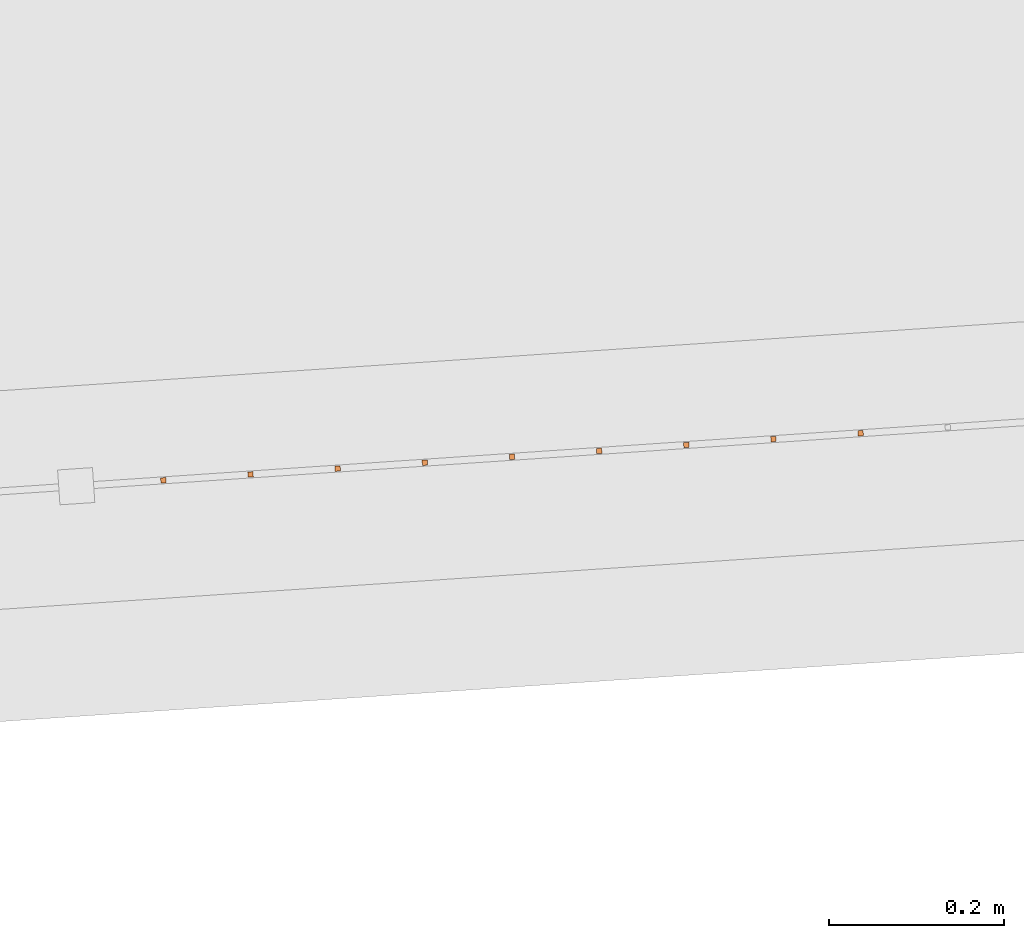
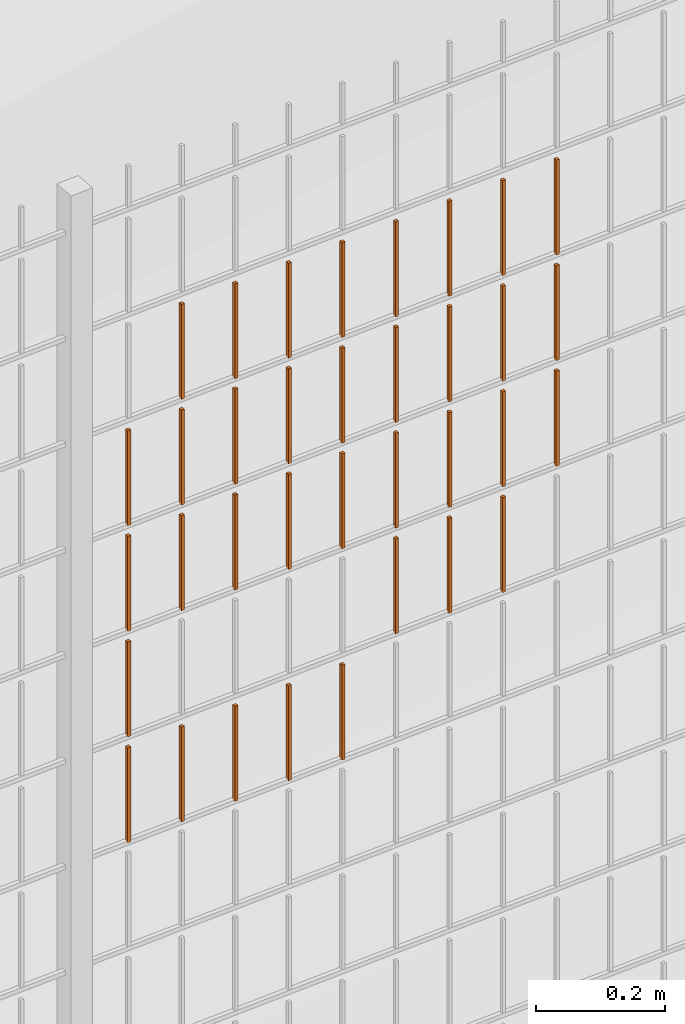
# One storey, part 113 of 1809: 35 proxies, 1 element without a shape of its own.
"""IFC2X3 building model written with IfcOpenShell, lengths in millimetres."""

import ifcopenshell
import ifcopenshell.guid

model = None  # the IFC model being written
_history = None  # IfcOwnerHistory: only IFC2X3 demands one
_inside = {}  # id of a spatial element -> (the spatial element, [elements in it])
_under = {}  # id of a project, library or spatial element -> (it, [spatial elements below it])
_declared = {}  # id of a project -> (the project, [libraries it declares])
_typed = {}  # id of a type object -> (the type object, [elements of that type])
_made_of = {}  # id of a material, layer set ... -> (it, [elements and type objects made of it])


def new_model(schema):
    """Start an empty IFC model of exactly this schema.

    Asked for "IFC4X3", IfcOpenShell would pick the latest addendum, in which some entities
    have other attributes; the version numbers below select the first issue.
    IFC2X3 requires an IfcOwnerHistory on every rooted entity: one is made here for all.
    """
    global model, _history
    if schema == "IFC4X3":
        model = ifcopenshell.file(schema_version=(4, 3, 0, 0))
    else:
        model = ifcopenshell.file(schema=schema)
    _inside.clear()
    _under.clear()
    _declared.clear()
    _typed.clear()
    _made_of.clear()
    _history = None
    if model.schema == "IFC2X3":
        org = make("IfcOrganization", Name="unknown")
        user = make(
            "IfcPersonAndOrganization",
            ThePerson=make("IfcPerson", FamilyName="unknown"),
            TheOrganization=org,
        )
        app = make(
            "IfcApplication",
            ApplicationDeveloper=org,
            Version="unknown",
            ApplicationFullName="unknown",
            ApplicationIdentifier="unknown",
        )
        _history = make(
            "IfcOwnerHistory",
            OwningUser=user,
            OwningApplication=app,
            ChangeAction="ADDED",
            CreationDate=0,
        )
    return model


def make(cls, **values):
    """One entity of the class cls with the attributes given. An attribute that is None is left unset."""
    return model.create_entity(
        cls, **{name: value for name, value in values.items() if value is not None}
    )


def entity(cls, *values):
    """Any entity or typed value of the class cls, its attributes in the order of the schema. None: left unset."""
    e = model.create_entity(cls)
    for i, value in enumerate(values):
        if value is not None:
            e[i] = value
    return e


def rooted(cls, **values):
    """An entity with a GlobalId (a new one), such as an element, a storey or a relation."""
    return make(cls, GlobalId=ifcopenshell.guid.new(), OwnerHistory=_history, **values)


def si_unit(unit_type, name, prefix=None):
    """IfcSIUnit, for example si_unit("LENGTHUNIT", "METRE", prefix="MILLI")."""
    return make("IfcSIUnit", UnitType=unit_type, Prefix=prefix, Name=name)


def converted_unit(unit_type, name, factor, base, dimensions=None, offset=None):
    """IfcConversionBasedUnit, such as the inch: factor (a typed value) times the base unit."""
    return make(
        "IfcConversionBasedUnit"
        if offset is None
        else "IfcConversionBasedUnitWithOffset",
        ConversionOffset=offset,
        Dimensions=None
        if dimensions is None
        else entity("IfcDimensionalExponents", *dimensions),
        UnitType=unit_type,
        Name=name,
        ConversionFactor=make(
            "IfcMeasureWithUnit", ValueComponent=factor, UnitComponent=base
        ),
    )


def derived_unit(unit_type, elements):
    """IfcDerivedUnit: a product of units, each with its exponent."""
    return make(
        "IfcDerivedUnit",
        Elements=[
            make("IfcDerivedUnitElement", Unit=unit, Exponent=power)
            for unit, power in elements
        ],
        UnitType=unit_type,
    )


def money_unit(currency):
    """IfcMonetaryUnit."""
    return make("IfcMonetaryUnit", Currency=currency)


def assignment(units):
    """IfcUnitAssignment: the units of a project."""
    return None if units is None else make("IfcUnitAssignment", Units=units)


def point(xyz):
    """IfcCartesianPoint."""
    return None if xyz is None else make("IfcCartesianPoint", Coordinates=xyz)


def direction(xyz):
    """IfcDirection."""
    return None if xyz is None else make("IfcDirection", DirectionRatios=xyz)


def frame(location, z_axis=None, x_axis=None):
    """IfcAxis2Placement3D, a coordinate frame: its origin and axes. An axis left out is left unset."""
    return make(
        "IfcAxis2Placement3D",
        Location=point(location),
        Axis=direction(z_axis),
        RefDirection=direction(x_axis),
    )


def origin_with_axes():
    """The frame at (0, 0, 0) with the z axis (0, 0, 1) and the x axis (1, 0, 0) written out."""
    return frame((0.0, 0.0, 0.0), z_axis=(0.0, 0.0, 1.0), x_axis=(1.0, 0.0, 0.0))


def place(relative_to, where):
    """IfcLocalPlacement: puts the frame where relative to a parent placement (None: the world)."""
    return make(
        "IfcLocalPlacement", PlacementRelTo=relative_to, RelativePlacement=where
    )


def context(
    kind, dimensions, precision=None, world=None, true_north=None, identifier=None
):
    """IfcGeometricRepresentationContext, for example the 3D "Model" context."""
    return make(
        "IfcGeometricRepresentationContext",
        ContextIdentifier=identifier,
        ContextType=kind,
        CoordinateSpaceDimension=dimensions,
        Precision=precision,
        WorldCoordinateSystem=world,
        TrueNorth=true_north,
    )


def subcontext(parent, identifier, kind, view, scale=None):
    """IfcGeometricRepresentationSubContext, for example "Body" below "Model"."""
    return make(
        "IfcGeometricRepresentationSubContext",
        ContextIdentifier=identifier,
        ContextType=kind,
        ParentContext=parent,
        TargetScale=scale,
        TargetView=view,
    )


def project(units=None, contexts=None):
    """IfcProject with its units and contexts."""
    return rooted(
        "IfcProject",
        Name="project",
        RepresentationContexts=contexts,
        UnitsInContext=assignment(units),
    )


def spatial(cls, under=None, at=None, **own):
    """A site, building, storey or space (cls), placed at a placement, below another one or the project."""
    s = rooted(cls, ObjectPlacement=at, **own)
    if under is not None:
        _under.setdefault(under.id(), (under, []))[1].append(s)
    return s


def faces_of(points, faces, orient=None, outer=None):
    """IfcFace entities. A face is a list of loops; a loop is a list of indices into points, from 0.

    orient and outer hold one flag for each loop. By default every Orientation is true, the
    first loop of a face is its IfcFaceOuterBound and the others are IfcFaceBound.
    """
    made = []
    for i, loops in enumerate(faces):
        bounds = []
        for j, loop in enumerate(loops):
            is_outer = j == 0 if outer is None else outer[i][j]
            bounds.append(
                make(
                    "IfcFaceOuterBound" if is_outer else "IfcFaceBound",
                    Bound=make("IfcPolyLoop", Polygon=[points[k] for k in loop]),
                    Orientation=True if orient is None else orient[i][j],
                )
            )
        made.append(make("IfcFace", Bounds=bounds))
    return made


def faceted_brep(points, faces, orient=None, outer=None, voids=None):
    """IfcFacetedBrep: a solid bounded by flat faces; with voids (closed shells), ...WithVoids."""
    shared = [point(p) for p in points]
    hull = make("IfcClosedShell", CfsFaces=faces_of(shared, faces, orient, outer))
    if voids is None:
        return make("IfcFacetedBrep", Outer=hull)
    return make(
        "IfcFacetedBrepWithVoids",
        Outer=hull,
        Voids=[
            make(cls, CfsFaces=faces_of(shared, fs, o, b)) for cls, fs, o, b in voids
        ],
    )


def shape(context_of_items, identifier, shape_type, items):
    """IfcShapeRepresentation: the items that make up one representation, for example the "Body"."""
    return make(
        "IfcShapeRepresentation",
        ContextOfItems=context_of_items,
        RepresentationIdentifier=identifier,
        RepresentationType=shape_type,
        Items=items,
    )


def source(mapping_origin, context_of_items, identifier, shape_type, items):
    """IfcRepresentationMap: a shape defined once, which mapped items show again and again."""
    return make(
        "IfcRepresentationMap",
        MappingOrigin=mapping_origin,
        MappedRepresentation=shape(context_of_items, identifier, shape_type, items),
    )


def transform(
    local_origin,
    x_axis=None,
    y_axis=None,
    z_axis=None,
    scale=None,
    scale2=None,
    scale3=None,
    uniform=True,
):
    """IfcCartesianTransformationOperator3D, or its non-uniform kind. x_axis, y_axis, z_axis: its Axis1, 2, 3."""
    if uniform:
        return make(
            "IfcCartesianTransformationOperator3D",
            Axis1=direction(x_axis),
            Axis2=direction(y_axis),
            LocalOrigin=point(local_origin),
            Scale=scale,
            Axis3=direction(z_axis),
        )
    return make(
        "IfcCartesianTransformationOperator3DnonUniform",
        Axis1=direction(x_axis),
        Axis2=direction(y_axis),
        LocalOrigin=point(local_origin),
        Scale=scale,
        Axis3=direction(z_axis),
        Scale2=scale2,
        Scale3=scale3,
    )


def mapped(mapping_source, mapping_target):
    """IfcMappedItem: shows the shape of a source again, moved by a transform."""
    return make(
        "IfcMappedItem", MappingSource=mapping_source, MappingTarget=mapping_target
    )


def material(Name=None, Category=None):
    """IfcMaterial."""
    return make("IfcMaterial", Name=Name, Category=Category)


def made_of(thing, what):
    """Note that an element or type object is made of a material, layer set ...; save() writes the relation."""
    if what is not None:
        _made_of.setdefault(what.id(), (what, []))[1].append(thing)
    return thing


def type_object(cls, material=None, **own):
    """A type object (cls), such as IfcWallType, which elements share."""
    return made_of(rooted(cls, **own), material)


def element(
    cls,
    number,
    at=None,
    inside=None,
    cuts=None,
    type_object=None,
    material=None,
    context=None,
    identifier="Body",
    shape_type=None,
    held_by="IfcProductDefinitionShape",
    body=None,
    shapes=None,
    **own,
):
    """One element of the class cls, such as IfcWall. Its Tag is "e" and its number.

    at: its placement. inside: the storey or other place that contains it. cuts: it is an
    opening in that element (IfcRelVoidsElement). A single representation is given by context,
    identifier, shape_type and body (its items); several are given by shapes. held_by: the class
    of the entity that holds the representations. save() writes the other relations.
    """
    e = rooted(cls, Tag="e%d" % number, ObjectPlacement=at, **own)
    if body is not None:
        shapes = [shape(context, identifier, shape_type, body)]
    if shapes is not None:
        e.Representation = make(held_by, Representations=shapes)
    if inside is not None:
        _inside.setdefault(inside.id(), (inside, []))[1].append(e)
    if cuts is not None:
        rooted(
            "IfcRelVoidsElement", RelatingBuildingElement=cuts, RelatedOpeningElement=e
        )
    if type_object is not None:
        _typed.setdefault(type_object.id(), (type_object, []))[1].append(e)
    return made_of(e, material)


def aggregate(whole, parts):
    """IfcRelAggregates: a whole, such as a stair, and the parts it consists of."""
    return rooted("IfcRelAggregates", RelatingObject=whole, RelatedObjects=parts)


def save(model, path):
    """Write the relations noted so far, then the file.

    IfcRelAggregates (storeys below a building ...), IfcRelContainedInSpatialStructure (elements
    in a storey), IfcRelDefinesByType, IfcRelAssociatesMaterial and IfcRelDeclares: one each for
    every whole, place, type object, material and project.
    """
    for whole, parts in _under.values():
        aggregate(whole, parts)
    for where, things in _inside.values():
        rooted(
            "IfcRelContainedInSpatialStructure",
            RelatedElements=things,
            RelatingStructure=where,
        )
    for kind, things in _typed.values():
        rooted("IfcRelDefinesByType", RelatedObjects=things, RelatingType=kind)
    for what, things in _made_of.values():
        rooted("IfcRelAssociatesMaterial", RelatedObjects=things, RelatingMaterial=what)
    for by, libraries in _declared.values():
        rooted("IfcRelDeclares", RelatingContext=by, RelatedDefinitions=libraries)
    model.write(path)


model = new_model("IFC2X3")

# Units and contexts
model_context = context("Model", 3, precision=0.01, world=origin_with_axes(), true_north=direction((0.0, 1.0)))
body_context = subcontext(model_context, "Body", "Model", "MODEL_VIEW")
ifc_project = project(units=[si_unit("LENGTHUNIT", "METRE", prefix="MILLI"), si_unit("AREAUNIT", "SQUARE_METRE"), si_unit("VOLUMEUNIT", "CUBIC_METRE"), converted_unit("PLANEANGLEUNIT", "DEGREE", entity("IfcPlaneAngleMeasure", 0.0174532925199), si_unit("PLANEANGLEUNIT", "RADIAN"), dimensions=[0, 0, 0, 0, 0, 0, 0]), si_unit("SOLIDANGLEUNIT", "STERADIAN"), money_unit("EUR"), converted_unit("TIMEUNIT", "Year", entity("IfcTimeMeasure", 31556926.0), si_unit("TIMEUNIT", "SECOND"), dimensions=[0, 0, 1, 0, 0, 0, 0]), si_unit("MASSUNIT", "GRAM", prefix="KILO"), si_unit("THERMODYNAMICTEMPERATUREUNIT", "DEGREE_CELSIUS"), si_unit("LUMINOUSINTENSITYUNIT", "LUMEN"), si_unit("ENERGYUNIT", "JOULE", prefix="MEGA"), derived_unit("THERMALCONDUCTANCEUNIT", [(si_unit("POWERUNIT", "WATT"), 1), (si_unit("LENGTHUNIT", "METRE"), -1), (si_unit("THERMODYNAMICTEMPERATUREUNIT", "KELVIN"), -1)]), derived_unit("SPECIFICHEATCAPACITYUNIT", [(si_unit("ENERGYUNIT", "JOULE"), 1), (si_unit("MASSUNIT", "GRAM", prefix="KILO"), -1), (si_unit("THERMODYNAMICTEMPERATUREUNIT", "KELVIN"), -1)]), derived_unit("MASSDENSITYUNIT", [(si_unit("MASSUNIT", "GRAM", prefix="KILO"), 1), (si_unit("VOLUMEUNIT", "CUBIC_METRE"), -1)])], contexts=[model_context])

# Site, building, storey
site_placement = place(None, origin_with_axes())
site = spatial("IfcSite", under=ifc_project, at=site_placement, Name="Politse- ja Piirivalveameti ning Päästeameti ühishoone", CompositionType="ELEMENT")
building_placement = place(site_placement, origin_with_axes())
building = spatial("IfcBuilding", under=site, at=building_placement, Name="Politse- ja Piirivalveameti ning Päästeameti ühishoone", CompositionType="ELEMENT")
storey_placement = place(building_placement, origin_with_axes())
storey = spatial("IfcBuildingStorey", under=building, at=storey_placement, Name="Esimene korrus", CompositionType="ELEMENT", Elevation=0.0)

# Proxies
building_element_proxy_type_1 = type_object("IfcBuildingElementProxyType", Name="Railing Type", PredefinedType="NOTDEFINED")
proxy_1_placement = place(storey_placement, frame((89252.001212, -29183.4766571, 203.661247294), z_axis=(0.0, 0.0, 1.0), x_axis=(1.0, 0.0, 0.0)))
proxy_1 = element("IfcBuildingElementProxy", 1, at=proxy_1_placement, inside=storey, type_object=building_element_proxy_type_1, Name="PIIRDEAED")
ifc_material = material(Name="ET-03_Raud")
building_element_proxy_type_2 = type_object("IfcBuildingElementProxyType", Name="IfcBuildingElementProxy", PredefinedType="NOTDEFINED")
shared_shape_1 = source(origin_with_axes(), body_context, "Body", "Brep", [
    faceted_brep([(3.0, 3.0, -0.000752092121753), (-3.0, 3.0, -0.000752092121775), (-3.0, 3.0, 179.99926046), (3.0, 3.0, 179.99926046), (3.0, -3.0, 0.000752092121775), (-3.0, -3.0, 0.000752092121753), (-3.0, -3.0, 180.000764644), (3.0, -3.0, 180.000764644)], [[[0, 1, 2, 3]], [[0, 4, 5, 1]], [[1, 5, 6, 2]], [[3, 2, 6, 7]], [[4, 0, 3, 7]], [[5, 4, 7, 6]]]),
])
proxy_2_placement = place(proxy_1_placement, frame((-91917.2407297, -23506.4374897, 804.138466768), z_axis=(0.0, 0.0, 1.0), x_axis=(1.0, 0.0, 0.0)))
proxy_2 = element("IfcBuildingElementProxy", 2, at=proxy_2_placement, type_object=building_element_proxy_type_2, material=ifc_material, Name="BALUSTER - 001", context=body_context, shape_type="MappedRepresentation", body=[
    mapped(shared_shape_1, transform((0.0, 0.0, 0.0), x_axis=(-0.0673926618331, 0.997726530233, 0.0), y_axis=(-0.997726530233, -0.0673926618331, 0.0), z_axis=(0.0, 0.0, 1.0))),
])
proxy_3_placement = place(proxy_1_placement, frame((-91717.6954236, -23492.9589574, 1204.18860624), z_axis=(0.0, 0.0, 1.0), x_axis=(1.0, 0.0, 0.0)))
proxy_3 = element("IfcBuildingElementProxy", 3, at=proxy_3_placement, type_object=building_element_proxy_type_2, material=ifc_material, Name="BALUSTER - 001", context=body_context, shape_type="MappedRepresentation", body=[
    mapped(shared_shape_1, transform((0.0, 0.0, 0.0), x_axis=(-0.0673926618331, 0.997726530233, 0.0), y_axis=(-0.997726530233, -0.0673926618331, 0.0), z_axis=(0.0, 0.0, 1.0))),
])
shared_shape_2 = source(origin_with_axes(), body_context, "Body", "Brep", [
    faceted_brep([(3.0, 3.0, -0.000752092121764), (-3.0, 3.0, -0.000752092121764), (-3.0, 3.0, 179.99926046), (3.0, 3.0, 179.99926046), (3.0, -3.0, 0.000752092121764), (-3.0, -3.0, 0.000752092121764), (-3.0, -3.0, 180.000764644), (3.0, -3.0, 180.000764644)], [[[0, 1, 2, 3]], [[0, 4, 5, 1]], [[1, 5, 6, 2]], [[3, 2, 6, 7]], [[4, 0, 3, 7]], [[5, 4, 7, 6]]]),
])
proxy_4_placement = place(proxy_1_placement, frame((-91817.4680766, -23499.6982236, 1204.16353651), z_axis=(0.0, 0.0, 1.0), x_axis=(1.0, 0.0, 0.0)))
proxy_4 = element("IfcBuildingElementProxy", 4, at=proxy_4_placement, type_object=building_element_proxy_type_2, material=ifc_material, Name="BALUSTER - 001", context=body_context, shape_type="MappedRepresentation", body=[
    mapped(shared_shape_2, transform((0.0, 0.0, 0.0), x_axis=(-0.0673926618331, 0.997726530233, 0.0), y_axis=(-0.997726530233, -0.0673926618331, 0.0), z_axis=(0.0, 0.0, 1.0))),
])
shared_shape_3 = source(origin_with_axes(), body_context, "Body", "Brep", [
    faceted_brep([(3.0, 3.0, -0.000752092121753), (-3.0, 3.0, -0.000752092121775), (-3.0, 3.0, 179.99926046), (3.0, 3.0, 179.99926046), (3.0, -3.0, 0.000752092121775), (-3.0, -3.0, 0.000752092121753), (-3.0, -3.0, 180.000764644), (3.0, -3.0, 180.000764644)], [[[0, 1, 2, 3]], [[0, 4, 5, 1]], [[1, 5, 6, 2]], [[3, 2, 6, 7]], [[4, 0, 3, 7]], [[5, 4, 7, 6]]]),
])
proxy_5_placement = place(proxy_1_placement, frame((-91717.6954236, -23492.9589574, 1404.18860624), z_axis=(0.0, 0.0, 1.0), x_axis=(1.0, 0.0, 0.0)))
proxy_5 = element("IfcBuildingElementProxy", 5, at=proxy_5_placement, type_object=building_element_proxy_type_2, material=ifc_material, Name="BALUSTER - 001", context=body_context, shape_type="MappedRepresentation", body=[
    mapped(shared_shape_3, transform((0.0, 0.0, 0.0), x_axis=(-0.0673926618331, 0.997726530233, 0.0), y_axis=(-0.997726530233, -0.0673926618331, 0.0), z_axis=(0.0, 0.0, 1.0))),
])
proxy_6_placement = place(proxy_1_placement, frame((-91717.6954236, -23492.9589574, 1604.18860624), z_axis=(0.0, 0.0, 1.0), x_axis=(1.0, 0.0, 0.0)))
proxy_6 = element("IfcBuildingElementProxy", 6, at=proxy_6_placement, type_object=building_element_proxy_type_2, material=ifc_material, Name="BALUSTER - 001", context=body_context, shape_type="MappedRepresentation", body=[
    mapped(shared_shape_3, transform((0.0, 0.0, 0.0), x_axis=(-0.0673926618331, 0.997726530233, 0.0), y_axis=(-0.997726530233, -0.0673926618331, 0.0), z_axis=(0.0, 0.0, 1.0))),
])
shared_shape_4 = source(origin_with_axes(), body_context, "Body", "Brep", [
    faceted_brep([(3.0, 3.0, -0.000752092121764), (-3.0, 3.0, -0.000752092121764), (-3.0, 3.0, 179.99926046), (3.0, 3.0, 179.99926046), (3.0, -3.0, 0.000752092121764), (-3.0, -3.0, 0.000752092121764), (-3.0, -3.0, 180.000764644), (3.0, -3.0, 180.000764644)], [[[0, 1, 2, 3]], [[0, 4, 5, 1]], [[1, 5, 6, 2]], [[3, 2, 6, 7]], [[4, 0, 3, 7]], [[5, 4, 7, 6]]]),
])
proxy_7_placement = place(proxy_1_placement, frame((-91817.4680766, -23499.6982236, 1404.16353651), z_axis=(0.0, 0.0, 1.0), x_axis=(1.0, 0.0, 0.0)))
proxy_7 = element("IfcBuildingElementProxy", 7, at=proxy_7_placement, type_object=building_element_proxy_type_2, material=ifc_material, Name="BALUSTER - 001", context=body_context, shape_type="MappedRepresentation", body=[
    mapped(shared_shape_4, transform((0.0, 0.0, 0.0), x_axis=(-0.0673926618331, 0.997726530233, 0.0), y_axis=(-0.997726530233, -0.0673926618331, 0.0), z_axis=(0.0, 0.0, 1.0))),
])
proxy_8_placement = place(proxy_1_placement, frame((-91817.4680766, -23499.6982236, 1604.16353651), z_axis=(0.0, 0.0, 1.0), x_axis=(1.0, 0.0, 0.0)))
proxy_8 = element("IfcBuildingElementProxy", 8, at=proxy_8_placement, type_object=building_element_proxy_type_2, material=ifc_material, Name="BALUSTER - 001", context=body_context, shape_type="MappedRepresentation", body=[
    mapped(shared_shape_4, transform((0.0, 0.0, 0.0), x_axis=(-0.0673926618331, 0.997726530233, 0.0), y_axis=(-0.997726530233, -0.0673926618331, 0.0), z_axis=(0.0, 0.0, 1.0))),
])
shared_shape_5 = source(origin_with_axes(), body_context, "Body", "Brep", [
    faceted_brep([(3.0, 3.0, -0.000752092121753), (-3.0, 3.0, -0.000752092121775), (-3.0, 3.0, 179.99926046), (3.0, 3.0, 179.99926046), (3.0, -3.0, 0.000752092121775), (-3.0, -3.0, 0.000752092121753), (-3.0, -3.0, 180.000764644), (3.0, -3.0, 180.000764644)], [[[0, 1, 2, 3]], [[0, 4, 5, 1]], [[1, 5, 6, 2]], [[3, 2, 6, 7]], [[4, 0, 3, 7]], [[5, 4, 7, 6]]]),
])
proxy_9_placement = place(proxy_1_placement, frame((-92017.0133827, -23513.1767559, 804.113397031), z_axis=(0.0, 0.0, 1.0), x_axis=(1.0, 0.0, 0.0)))
proxy_9 = element("IfcBuildingElementProxy", 9, at=proxy_9_placement, type_object=building_element_proxy_type_2, material=ifc_material, Name="BALUSTER - 001", context=body_context, shape_type="MappedRepresentation", body=[
    mapped(shared_shape_5, transform((0.0, 0.0, 0.0), x_axis=(-0.0673926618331, 0.997726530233, 0.0), y_axis=(-0.997726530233, -0.0673926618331, 0.0), z_axis=(0.0, 0.0, 1.0))),
])
shared_shape_6 = source(origin_with_axes(), body_context, "Body", "Brep", [
    faceted_brep([(3.0, 3.0, -0.000752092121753), (-3.0, 3.0, -0.000752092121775), (-3.0, 3.0, 179.99926046), (3.0, 3.0, 179.99926046), (3.0, -3.0, 0.000752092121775), (-3.0, -3.0, 0.000752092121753), (-3.0, -3.0, 180.000764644), (3.0, -3.0, 180.000764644)], [[[0, 1, 2, 3]], [[0, 4, 5, 1]], [[1, 5, 6, 2]], [[3, 2, 6, 7]], [[4, 0, 3, 7]], [[5, 4, 7, 6]]]),
])
proxy_10_placement = place(proxy_1_placement, frame((-91418.3774645, -23472.7411588, 1004.26381546), z_axis=(0.0, 0.0, 1.0), x_axis=(1.0, 0.0, 0.0)))
proxy_10 = element("IfcBuildingElementProxy", 10, at=proxy_10_placement, type_object=building_element_proxy_type_2, material=ifc_material, Name="BALUSTER - 001", context=body_context, shape_type="MappedRepresentation", body=[
    mapped(shared_shape_6, transform((0.0, 0.0, 0.0), x_axis=(-0.0673926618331, 0.997726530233, 0.0), y_axis=(-0.997726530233, -0.0673926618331, 0.0), z_axis=(0.0, 0.0, 1.0))),
])
shared_shape_7 = source(origin_with_axes(), body_context, "Body", "Brep", [
    faceted_brep([(3.0, 3.0, -0.000752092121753), (-3.0, 3.0, -0.000752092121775), (-3.0, 3.0, 179.99926046), (3.0, 3.0, 179.99926046), (3.0, -3.0, 0.000752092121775), (-3.0, -3.0, 0.000752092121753), (-3.0, -3.0, 180.000764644), (3.0, -3.0, 180.000764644)], [[[0, 1, 2, 3]], [[0, 4, 5, 1]], [[1, 5, 6, 2]], [[3, 2, 6, 7]], [[4, 0, 3, 7]], [[5, 4, 7, 6]]]),
])
proxy_11_placement = place(proxy_1_placement, frame((-91917.2407297, -23506.4374897, 1204.13846677), z_axis=(0.0, 0.0, 1.0), x_axis=(1.0, 0.0, 0.0)))
proxy_11 = element("IfcBuildingElementProxy", 11, at=proxy_11_placement, type_object=building_element_proxy_type_2, material=ifc_material, Name="BALUSTER - 001", context=body_context, shape_type="MappedRepresentation", body=[
    mapped(shared_shape_7, transform((0.0, 0.0, 0.0), x_axis=(-0.0673926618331, 0.997726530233, 0.0), y_axis=(-0.997726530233, -0.0673926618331, 0.0), z_axis=(0.0, 0.0, 1.0))),
])
shared_shape_8 = source(origin_with_axes(), body_context, "Body", "Brep", [
    faceted_brep([(3.0, 3.0, -0.000752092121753), (-3.0, 3.0, -0.000752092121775), (-3.0, 3.0, 179.99926046), (3.0, 3.0, 179.99926046), (3.0, -3.0, 0.000752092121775), (-3.0, -3.0, 0.000752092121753), (-3.0, -3.0, 180.000764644), (3.0, -3.0, 180.000764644)], [[[0, 1, 2, 3]], [[0, 4, 5, 1]], [[1, 5, 6, 2]], [[3, 2, 6, 7]], [[4, 0, 3, 7]], [[5, 4, 7, 6]]]),
])
proxy_12_placement = place(proxy_1_placement, frame((-91917.2407297, -23506.4374897, 1404.13846677), z_axis=(0.0, 0.0, 1.0), x_axis=(1.0, 0.0, 0.0)))
proxy_12 = element("IfcBuildingElementProxy", 12, at=proxy_12_placement, type_object=building_element_proxy_type_2, material=ifc_material, Name="BALUSTER - 001", context=body_context, shape_type="MappedRepresentation", body=[
    mapped(shared_shape_8, transform((0.0, 0.0, 0.0), x_axis=(-0.0673926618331, 0.997726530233, 0.0), y_axis=(-0.997726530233, -0.0673926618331, 0.0), z_axis=(0.0, 0.0, 1.0))),
])
proxy_13_placement = place(proxy_1_placement, frame((-91917.2407297, -23506.4374897, 1604.13846677), z_axis=(0.0, 0.0, 1.0), x_axis=(1.0, 0.0, 0.0)))
proxy_13 = element("IfcBuildingElementProxy", 13, at=proxy_13_placement, type_object=building_element_proxy_type_2, material=ifc_material, Name="BALUSTER - 001", context=body_context, shape_type="MappedRepresentation", body=[
    mapped(shared_shape_8, transform((0.0, 0.0, 0.0), x_axis=(-0.0673926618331, 0.997726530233, 0.0), y_axis=(-0.997726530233, -0.0673926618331, 0.0), z_axis=(0.0, 0.0, 1.0))),
])
shared_shape_9 = source(origin_with_axes(), body_context, "Body", "Brep", [
    faceted_brep([(3.0, 3.0, -0.00075209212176), (-3.0, 3.0, -0.000752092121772), (-3.00000000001, 3.0, 179.99926046), (2.99999999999, 3.0, 179.99926046), (3.0, -3.0, 0.000752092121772), (-3.0, -3.0, 0.00075209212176), (-3.00000000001, -3.0, 180.000764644), (2.99999999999, -3.0, 180.000764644)], [[[0, 1, 2, 3]], [[0, 4, 5, 1]], [[1, 5, 6, 2]], [[3, 2, 6, 7]], [[4, 0, 3, 7]], [[5, 4, 7, 6]]]),
])
proxy_14_placement = place(proxy_1_placement, frame((-91318.6048115, -23466.0018926, 1004.28888519), z_axis=(0.0, 0.0, 1.0), x_axis=(1.0, 0.0, 0.0)))
proxy_14 = element("IfcBuildingElementProxy", 14, at=proxy_14_placement, type_object=building_element_proxy_type_2, material=ifc_material, Name="BALUSTER - 001", context=body_context, shape_type="MappedRepresentation", body=[
    mapped(shared_shape_9, transform((0.0, 0.0, 0.0), x_axis=(-0.0673926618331, 0.997726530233, 0.0), y_axis=(-0.997726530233, -0.0673926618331, 0.0), z_axis=(0.0, 0.0, 1.0))),
])
shared_shape_10 = source(origin_with_axes(), body_context, "Body", "Brep", [
    faceted_brep([(3.0, 3.0, -0.000752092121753), (-3.0, 3.0, -0.000752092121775), (-3.0, 3.0, 179.99926046), (3.0, 3.0, 179.99926046), (3.0, -3.0, 0.000752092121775), (-3.0, -3.0, 0.000752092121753), (-3.0, -3.0, 180.000764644), (3.0, -3.0, 180.000764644)], [[[0, 1, 2, 3]], [[0, 4, 5, 1]], [[1, 5, 6, 2]], [[3, 2, 6, 7]], [[4, 0, 3, 7]], [[5, 4, 7, 6]]]),
])
proxy_15_placement = place(proxy_1_placement, frame((-91318.6048115, -23466.0018926, 1204.28888519), z_axis=(0.0, 0.0, 1.0), x_axis=(1.0, 0.0, 0.0)))
proxy_15 = element("IfcBuildingElementProxy", 15, at=proxy_15_placement, type_object=building_element_proxy_type_2, material=ifc_material, Name="BALUSTER - 001", context=body_context, shape_type="MappedRepresentation", body=[
    mapped(shared_shape_10, transform((0.0, 0.0, 0.0), x_axis=(-0.0673926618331, 0.997726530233, 0.0), y_axis=(-0.997726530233, -0.0673926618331, 0.0), z_axis=(0.0, 0.0, 1.0))),
])
shared_shape_11 = source(origin_with_axes(), body_context, "Body", "Brep", [
    faceted_brep([(3.0, 3.0, -0.000752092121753), (-3.0, 3.0, -0.000752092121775), (-3.0, 3.0, 179.99926046), (3.0, 3.0, 179.99926046), (3.0, -3.0, 0.000752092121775), (-3.0, -3.0, 0.000752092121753), (-3.0, -3.0, 180.000764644), (3.0, -3.0, 180.000764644)], [[[0, 1, 2, 3]], [[0, 4, 5, 1]], [[1, 5, 6, 2]], [[3, 2, 6, 7]], [[4, 0, 3, 7]], [[5, 4, 7, 6]]]),
])
proxy_16_placement = place(proxy_1_placement, frame((-91318.6048115, -23466.0018926, 1404.28888519), z_axis=(0.0, 0.0, 1.0), x_axis=(1.0, 0.0, 0.0)))
proxy_16 = element("IfcBuildingElementProxy", 16, at=proxy_16_placement, type_object=building_element_proxy_type_2, material=ifc_material, Name="BALUSTER - 001", context=body_context, shape_type="MappedRepresentation", body=[
    mapped(shared_shape_11, transform((0.0, 0.0, 0.0), x_axis=(-0.0673926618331, 0.997726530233, 0.0), y_axis=(-0.997726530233, -0.0673926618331, 0.0), z_axis=(0.0, 0.0, 1.0))),
])
proxy_17_placement = place(proxy_1_placement, frame((-91318.6048115, -23466.0018926, 1604.28888519), z_axis=(0.0, 0.0, 1.0), x_axis=(1.0, 0.0, 0.0)))
proxy_17 = element("IfcBuildingElementProxy", 17, at=proxy_17_placement, type_object=building_element_proxy_type_2, material=ifc_material, Name="BALUSTER - 001", context=body_context, shape_type="MappedRepresentation", body=[
    mapped(shared_shape_11, transform((0.0, 0.0, 0.0), x_axis=(-0.0673926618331, 0.997726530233, 0.0), y_axis=(-0.997726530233, -0.0673926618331, 0.0), z_axis=(0.0, 0.0, 1.0))),
])
shared_shape_12 = source(origin_with_axes(), body_context, "Body", "Brep", [
    faceted_brep([(3.0, 3.0, -0.000752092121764), (-3.0, 3.0, -0.000752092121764), (-3.0, 3.0, 179.99926046), (3.0, 3.0, 179.99926046), (3.0, -3.0, 0.000752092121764), (-3.0, -3.0, 0.000752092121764), (-3.0, -3.0, 180.000764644), (3.0, -3.0, 180.000764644)], [[[0, 1, 2, 3]], [[0, 4, 5, 1]], [[1, 5, 6, 2]], [[3, 2, 6, 7]], [[4, 0, 3, 7]], [[5, 4, 7, 6]]]),
])
proxy_18_placement = place(proxy_1_placement, frame((-91817.4680766, -23499.6982236, 804.163536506), z_axis=(0.0, 0.0, 1.0), x_axis=(1.0, 0.0, 0.0)))
proxy_18 = element("IfcBuildingElementProxy", 18, at=proxy_18_placement, type_object=building_element_proxy_type_2, material=ifc_material, Name="BALUSTER - 001", context=body_context, shape_type="MappedRepresentation", body=[
    mapped(shared_shape_12, transform((0.0, 0.0, 0.0), x_axis=(-0.0673926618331, 0.997726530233, 0.0), y_axis=(-0.997726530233, -0.0673926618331, 0.0), z_axis=(0.0, 0.0, 1.0))),
])
shared_shape_13 = source(origin_with_axes(), body_context, "Body", "Brep", [
    faceted_brep([(3.0, 3.0, -0.000752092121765), (-3.0, 3.0, -0.000752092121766), (-3.0, 3.0, 179.99926046), (3.0, 3.0, 179.99926046), (3.0, -3.0, 0.000752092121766), (-3.0, -3.0, 0.000752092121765), (-3.0, -3.0, 180.000764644), (3.0, -3.0, 180.000764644)], [[[0, 1, 2, 3]], [[0, 4, 5, 1]], [[1, 5, 6, 2]], [[3, 2, 6, 7]], [[4, 0, 3, 7]], [[5, 4, 7, 6]]]),
])
proxy_19_placement = place(proxy_1_placement, frame((-91418.3774645, -23472.7411588, 1204.26381546), z_axis=(0.0, 0.0, 1.0), x_axis=(1.0, 0.0, 0.0)))
proxy_19 = element("IfcBuildingElementProxy", 19, at=proxy_19_placement, type_object=building_element_proxy_type_2, material=ifc_material, Name="BALUSTER - 001", context=body_context, shape_type="MappedRepresentation", body=[
    mapped(shared_shape_13, transform((0.0, 0.0, 0.0), x_axis=(-0.0673926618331, 0.997726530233, 0.0), y_axis=(-0.997726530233, -0.0673926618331, 0.0), z_axis=(0.0, 0.0, 1.0))),
])
shared_shape_14 = source(origin_with_axes(), body_context, "Body", "Brep", [
    faceted_brep([(3.0, 3.0, -0.000752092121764), (-3.0, 3.0, -0.000752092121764), (-3.0, 3.0, 179.99926046), (3.0, 3.0, 179.99926046), (3.0, -3.0, 0.000752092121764), (-3.0, -3.0, 0.000752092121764), (-3.0, -3.0, 180.000764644), (3.0, -3.0, 180.000764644)], [[[0, 1, 2, 3]], [[0, 4, 5, 1]], [[1, 5, 6, 2]], [[3, 2, 6, 7]], [[4, 0, 3, 7]], [[5, 4, 7, 6]]]),
])
proxy_20_placement = place(proxy_1_placement, frame((-91617.9227706, -23486.2196912, 1204.21367598), z_axis=(0.0, 0.0, 1.0), x_axis=(1.0, 0.0, 0.0)))
proxy_20 = element("IfcBuildingElementProxy", 20, at=proxy_20_placement, type_object=building_element_proxy_type_2, material=ifc_material, Name="BALUSTER - 001", context=body_context, shape_type="MappedRepresentation", body=[
    mapped(shared_shape_14, transform((0.0, 0.0, 0.0), x_axis=(-0.0673926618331, 0.997726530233, 0.0), y_axis=(-0.997726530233, -0.0673926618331, 0.0), z_axis=(0.0, 0.0, 1.0))),
])
shared_shape_15 = source(origin_with_axes(), body_context, "Body", "Brep", [
    faceted_brep([(3.0, 3.0, -0.000752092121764), (-3.0, 3.0, -0.000752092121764), (-3.0, 3.0, 179.99926046), (3.0, 3.0, 179.99926046), (3.0, -3.0, 0.000752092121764), (-3.0, -3.0, 0.000752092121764), (-3.0, -3.0, 180.000764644), (3.0, -3.0, 180.000764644)], [[[0, 1, 2, 3]], [[0, 4, 5, 1]], [[1, 5, 6, 2]], [[3, 2, 6, 7]], [[4, 0, 3, 7]], [[5, 4, 7, 6]]]),
])
proxy_21_placement = place(proxy_1_placement, frame((-91617.9227706, -23486.2196912, 1404.21367598), z_axis=(0.0, 0.0, 1.0), x_axis=(1.0, 0.0, 0.0)))
proxy_21 = element("IfcBuildingElementProxy", 21, at=proxy_21_placement, type_object=building_element_proxy_type_2, material=ifc_material, Name="BALUSTER - 001", context=body_context, shape_type="MappedRepresentation", body=[
    mapped(shared_shape_15, transform((0.0, 0.0, 0.0), x_axis=(-0.0673926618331, 0.997726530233, 0.0), y_axis=(-0.997726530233, -0.0673926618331, 0.0), z_axis=(0.0, 0.0, 1.0))),
])
proxy_22_placement = place(proxy_1_placement, frame((-91617.9227706, -23486.2196912, 1604.21367598), z_axis=(0.0, 0.0, 1.0), x_axis=(1.0, 0.0, 0.0)))
proxy_22 = element("IfcBuildingElementProxy", 22, at=proxy_22_placement, type_object=building_element_proxy_type_2, material=ifc_material, Name="BALUSTER - 001", context=body_context, shape_type="MappedRepresentation", body=[
    mapped(shared_shape_15, transform((0.0, 0.0, 0.0), x_axis=(-0.0673926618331, 0.997726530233, 0.0), y_axis=(-0.997726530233, -0.0673926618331, 0.0), z_axis=(0.0, 0.0, 1.0))),
])
shared_shape_16 = source(origin_with_axes(), body_context, "Body", "Brep", [
    faceted_brep([(3.0, 3.0, -0.000752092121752), (-3.0, 3.0, -0.000752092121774), (-3.0, 3.0, 179.99926046), (3.0, 3.0, 179.99926046), (3.0, -3.0, 0.000752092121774), (-3.0, -3.0, 0.000752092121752), (-3.0, -3.0, 180.000764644), (3.0, -3.0, 180.000764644)], [[[0, 1, 2, 3]], [[0, 4, 5, 1]], [[1, 5, 6, 2]], [[3, 2, 6, 7]], [[4, 0, 3, 7]], [[5, 4, 7, 6]]]),
])
proxy_23_placement = place(proxy_1_placement, frame((-91518.1501176, -23479.480425, 1204.23874572), z_axis=(0.0, 0.0, 1.0), x_axis=(1.0, 0.0, 0.0)))
proxy_23 = element("IfcBuildingElementProxy", 23, at=proxy_23_placement, type_object=building_element_proxy_type_2, material=ifc_material, Name="BALUSTER - 001", context=body_context, shape_type="MappedRepresentation", body=[
    mapped(shared_shape_16, transform((0.0, 0.0, 0.0), x_axis=(-0.0673926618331, 0.997726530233, 0.0), y_axis=(-0.997726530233, -0.0673926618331, 0.0), z_axis=(0.0, 0.0, 1.0))),
])
shared_shape_17 = source(origin_with_axes(), body_context, "Body", "Brep", [
    faceted_brep([(3.0, 3.0, -0.000752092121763), (-3.0, 3.0, -0.000752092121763), (-3.0, 3.0, 179.99926046), (3.0, 3.0, 179.99926046), (3.0, -3.0, 0.000752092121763), (-3.0, -3.0, 0.000752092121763), (-3.0, -3.0, 180.000764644), (3.0, -3.0, 180.000764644)], [[[0, 1, 2, 3]], [[0, 4, 5, 1]], [[1, 5, 6, 2]], [[3, 2, 6, 7]], [[4, 0, 3, 7]], [[5, 4, 7, 6]]]),
])
proxy_24_placement = place(proxy_1_placement, frame((-91617.9227706, -23486.2196912, 804.21367598), z_axis=(0.0, 0.0, 1.0), x_axis=(1.0, 0.0, 0.0)))
proxy_24 = element("IfcBuildingElementProxy", 24, at=proxy_24_placement, type_object=building_element_proxy_type_2, material=ifc_material, Name="BALUSTER - 001", context=body_context, shape_type="MappedRepresentation", body=[
    mapped(shared_shape_17, transform((0.0, 0.0, 0.0), x_axis=(-0.0673926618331, 0.997726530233, 0.0), y_axis=(-0.997726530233, -0.0673926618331, 0.0), z_axis=(0.0, 0.0, 1.0))),
])
shared_shape_18 = source(origin_with_axes(), body_context, "Body", "Brep", [
    faceted_brep([(3.0, 3.0, -0.000752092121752), (-3.0, 3.0, -0.000752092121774), (-3.0, 3.0, 179.99926046), (3.0, 3.0, 179.99926046), (3.0, -3.0, 0.000752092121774), (-3.0, -3.0, 0.000752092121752), (-3.0, -3.0, 180.000764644), (3.0, -3.0, 180.000764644)], [[[0, 1, 2, 3]], [[0, 4, 5, 1]], [[1, 5, 6, 2]], [[3, 2, 6, 7]], [[4, 0, 3, 7]], [[5, 4, 7, 6]]]),
])
proxy_25_placement = place(proxy_1_placement, frame((-91717.6954236, -23492.9589574, 804.188606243), z_axis=(0.0, 0.0, 1.0), x_axis=(1.0, 0.0, 0.0)))
proxy_25 = element("IfcBuildingElementProxy", 25, at=proxy_25_placement, type_object=building_element_proxy_type_2, material=ifc_material, Name="BALUSTER - 001", context=body_context, shape_type="MappedRepresentation", body=[
    mapped(shared_shape_18, transform((0.0, 0.0, 0.0), x_axis=(-0.0673926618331, 0.997726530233, 0.0), y_axis=(-0.997726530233, -0.0673926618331, 0.0), z_axis=(0.0, 0.0, 1.0))),
])
proxy_26_placement = place(proxy_1_placement, frame((-92017.0133827, -23513.1767559, 1204.11339703), z_axis=(0.0, 0.0, 1.0), x_axis=(1.0, 0.0, 0.0)))
proxy_26 = element("IfcBuildingElementProxy", 26, at=proxy_26_placement, type_object=building_element_proxy_type_2, material=ifc_material, Name="BALUSTER - 001", context=body_context, shape_type="MappedRepresentation", body=[
    mapped(shared_shape_18, transform((0.0, 0.0, 0.0), x_axis=(-0.0673926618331, 0.997726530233, 0.0), y_axis=(-0.997726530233, -0.0673926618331, 0.0), z_axis=(0.0, 0.0, 1.0))),
])
shared_shape_19 = source(origin_with_axes(), body_context, "Body", "Brep", [
    faceted_brep([(3.0, 3.0, -0.000752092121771), (-3.0, 3.0, -0.000752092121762), (-3.00000000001, 3.0, 179.99926046), (2.99999999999, 3.0, 179.99926046), (3.0, -3.0, 0.000752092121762), (-3.0, -3.0, 0.000752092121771), (-3.00000000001, -3.0, 180.000764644), (2.99999999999, -3.0, 180.000764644)], [[[0, 1, 2, 3]], [[0, 4, 5, 1]], [[1, 5, 6, 2]], [[3, 2, 6, 7]], [[4, 0, 3, 7]], [[5, 4, 7, 6]]]),
])
proxy_27_placement = place(proxy_1_placement, frame((-92017.0133827, -23513.1767559, 1004.11339703), z_axis=(0.0, 0.0, 1.0), x_axis=(1.0, 0.0, 0.0)))
proxy_27 = element("IfcBuildingElementProxy", 27, at=proxy_27_placement, type_object=building_element_proxy_type_2, material=ifc_material, Name="BALUSTER - 001", context=body_context, shape_type="MappedRepresentation", body=[
    mapped(shared_shape_19, transform((0.0, 0.0, 0.0), x_axis=(-0.0673926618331, 0.997726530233, 0.0), y_axis=(-0.997726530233, -0.0673926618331, 0.0), z_axis=(0.0, 0.0, 1.0))),
])
shared_shape_20 = source(origin_with_axes(), body_context, "Body", "Brep", [
    faceted_brep([(3.0, 3.0, -0.000752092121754), (-3.0, 3.0, -0.000752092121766), (-3.00000000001, 3.00000000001, 179.99926046), (2.99999999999, 3.00000000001, 179.99926046), (3.0, -3.0, 0.000752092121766), (-3.0, -3.0, 0.000752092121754), (-3.00000000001, -2.99999999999, 180.000764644), (2.99999999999, -2.99999999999, 180.000764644)], [[[0, 1, 2, 3]], [[0, 4, 5, 1]], [[1, 5, 6, 2]], [[3, 2, 6, 7]], [[4, 0, 3, 7]], [[5, 4, 7, 6]]]),
])
proxy_28_placement = place(proxy_1_placement, frame((-91518.1501176, -23479.480425, 1004.23874572), z_axis=(0.0, 0.0, 1.0), x_axis=(1.0, 0.0, 0.0)))
proxy_28 = element("IfcBuildingElementProxy", 28, at=proxy_28_placement, type_object=building_element_proxy_type_2, material=ifc_material, Name="BALUSTER - 001", context=body_context, shape_type="MappedRepresentation", body=[
    mapped(shared_shape_20, transform((0.0, 0.0, 0.0), x_axis=(-0.0673926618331, 0.997726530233, 0.0), y_axis=(-0.997726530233, -0.0673926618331, 0.0), z_axis=(0.0, 0.0, 1.0))),
])
shared_shape_21 = source(origin_with_axes(), body_context, "Body", "Brep", [
    faceted_brep([(3.0, 3.0, -0.000752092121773), (-3.0, 3.0, -0.000752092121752), (-3.0, 3.0, 179.99926046), (3.0, 3.0, 179.99926046), (3.0, -3.0, 0.000752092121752), (-3.0, -3.0, 0.000752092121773), (-3.0, -3.0, 180.000764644), (3.0, -3.0, 180.000764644)], [[[0, 1, 2, 3]], [[0, 4, 5, 1]], [[1, 5, 6, 2]], [[3, 2, 6, 7]], [[4, 0, 3, 7]], [[5, 4, 7, 6]]]),
])
proxy_29_placement = place(proxy_1_placement, frame((-91218.8321585, -23459.2626265, 1204.31395493), z_axis=(0.0, 0.0, 1.0), x_axis=(1.0, 0.0, 0.0)))
proxy_29 = element("IfcBuildingElementProxy", 29, at=proxy_29_placement, type_object=building_element_proxy_type_2, material=ifc_material, Name="BALUSTER - 001", context=body_context, shape_type="MappedRepresentation", body=[
    mapped(shared_shape_21, transform((0.0, 0.0, 0.0), x_axis=(-0.0673926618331, 0.997726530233, 0.0), y_axis=(-0.997726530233, -0.0673926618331, 0.0), z_axis=(0.0, 0.0, 1.0))),
])
shared_shape_22 = source(origin_with_axes(), body_context, "Body", "Brep", [
    faceted_brep([(3.0, 3.0, -0.000752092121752), (-3.0, 3.0, -0.000752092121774), (-3.0, 3.0, 179.99926046), (3.0, 3.0, 179.99926046), (3.0, -3.0, 0.000752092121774), (-3.0, -3.0, 0.000752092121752), (-3.0, -3.0, 180.000764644), (3.0, -3.0, 180.000764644)], [[[0, 1, 2, 3]], [[0, 4, 5, 1]], [[1, 5, 6, 2]], [[3, 2, 6, 7]], [[4, 0, 3, 7]], [[5, 4, 7, 6]]]),
])
proxy_30_placement = place(proxy_1_placement, frame((-91518.1501176, -23479.480425, 1404.23874572), z_axis=(0.0, 0.0, 1.0), x_axis=(1.0, 0.0, 0.0)))
proxy_30 = element("IfcBuildingElementProxy", 30, at=proxy_30_placement, type_object=building_element_proxy_type_2, material=ifc_material, Name="BALUSTER - 001", context=body_context, shape_type="MappedRepresentation", body=[
    mapped(shared_shape_22, transform((0.0, 0.0, 0.0), x_axis=(-0.0673926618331, 0.997726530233, 0.0), y_axis=(-0.997726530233, -0.0673926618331, 0.0), z_axis=(0.0, 0.0, 1.0))),
])
proxy_31_placement = place(proxy_1_placement, frame((-91518.1501176, -23479.480425, 1604.23874572), z_axis=(0.0, 0.0, 1.0), x_axis=(1.0, 0.0, 0.0)))
proxy_31 = element("IfcBuildingElementProxy", 31, at=proxy_31_placement, type_object=building_element_proxy_type_2, material=ifc_material, Name="BALUSTER - 001", context=body_context, shape_type="MappedRepresentation", body=[
    mapped(shared_shape_22, transform((0.0, 0.0, 0.0), x_axis=(-0.0673926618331, 0.997726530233, 0.0), y_axis=(-0.997726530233, -0.0673926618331, 0.0), z_axis=(0.0, 0.0, 1.0))),
])
shared_shape_23 = source(origin_with_axes(), body_context, "Body", "Brep", [
    faceted_brep([(3.0, 3.0, -0.000752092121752), (-3.0, 3.0, -0.000752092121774), (-3.0, 3.0, 179.99926046), (3.0, 3.0, 179.99926046), (3.0, -3.0, 0.000752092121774), (-3.0, -3.0, 0.000752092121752), (-3.0, -3.0, 180.000764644), (3.0, -3.0, 180.000764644)], [[[0, 1, 2, 3]], [[0, 4, 5, 1]], [[1, 5, 6, 2]], [[3, 2, 6, 7]], [[4, 0, 3, 7]], [[5, 4, 7, 6]]]),
])
proxy_32_placement = place(proxy_1_placement, frame((-92017.0133827, -23513.1767559, 1404.11339703), z_axis=(0.0, 0.0, 1.0), x_axis=(1.0, 0.0, 0.0)))
proxy_32 = element("IfcBuildingElementProxy", 32, at=proxy_32_placement, type_object=building_element_proxy_type_2, material=ifc_material, Name="BALUSTER - 001", context=body_context, shape_type="MappedRepresentation", body=[
    mapped(shared_shape_23, transform((0.0, 0.0, 0.0), x_axis=(-0.0673926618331, 0.997726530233, 0.0), y_axis=(-0.997726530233, -0.0673926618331, 0.0), z_axis=(0.0, 0.0, 1.0))),
])
shared_shape_24 = source(origin_with_axes(), body_context, "Body", "Brep", [
    faceted_brep([(3.0, 3.0, -0.000752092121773), (-3.0, 3.0, -0.000752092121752), (-3.0, 3.0, 179.99926046), (3.0, 3.0, 179.99926046), (3.0, -3.0, 0.000752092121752), (-3.0, -3.0, 0.000752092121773), (-3.0, -3.0, 180.000764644), (3.0, -3.0, 180.000764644)], [[[0, 1, 2, 3]], [[0, 4, 5, 1]], [[1, 5, 6, 2]], [[3, 2, 6, 7]], [[4, 0, 3, 7]], [[5, 4, 7, 6]]]),
])
proxy_33_placement = place(proxy_1_placement, frame((-91218.8321585, -23459.2626265, 1404.31395493), z_axis=(0.0, 0.0, 1.0), x_axis=(1.0, 0.0, 0.0)))
proxy_33 = element("IfcBuildingElementProxy", 33, at=proxy_33_placement, type_object=building_element_proxy_type_2, material=ifc_material, Name="BALUSTER - 001", context=body_context, shape_type="MappedRepresentation", body=[
    mapped(shared_shape_24, transform((0.0, 0.0, 0.0), x_axis=(-0.0673926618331, 0.997726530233, 0.0), y_axis=(-0.997726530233, -0.0673926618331, 0.0), z_axis=(0.0, 0.0, 1.0))),
])
proxy_34_placement = place(proxy_1_placement, frame((-91218.8321585, -23459.2626265, 1604.31395493), z_axis=(0.0, 0.0, 1.0), x_axis=(1.0, 0.0, 0.0)))
proxy_34 = element("IfcBuildingElementProxy", 34, at=proxy_34_placement, type_object=building_element_proxy_type_2, material=ifc_material, Name="BALUSTER - 001", context=body_context, shape_type="MappedRepresentation", body=[
    mapped(shared_shape_24, transform((0.0, 0.0, 0.0), x_axis=(-0.0673926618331, 0.997726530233, 0.0), y_axis=(-0.997726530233, -0.0673926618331, 0.0), z_axis=(0.0, 0.0, 1.0))),
])
shared_shape_25 = source(origin_with_axes(), body_context, "Body", "Brep", [
    faceted_brep([(3.0, 3.0, -0.000752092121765), (-3.0, 3.0, -0.000752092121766), (-3.0, 3.0, 179.99926046), (3.0, 3.0, 179.99926046), (3.0, -3.0, 0.000752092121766), (-3.0, -3.0, 0.000752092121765), (-3.0, -3.0, 180.000764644), (3.0, -3.0, 180.000764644)], [[[0, 1, 2, 3]], [[0, 4, 5, 1]], [[1, 5, 6, 2]], [[3, 2, 6, 7]], [[4, 0, 3, 7]], [[5, 4, 7, 6]]]),
])
proxy_35_placement = place(proxy_1_placement, frame((-91418.3774645, -23472.7411588, 1404.26381546), z_axis=(0.0, 0.0, 1.0), x_axis=(1.0, 0.0, 0.0)))
proxy_35 = element("IfcBuildingElementProxy", 35, at=proxy_35_placement, type_object=building_element_proxy_type_2, material=ifc_material, Name="BALUSTER - 001", context=body_context, shape_type="MappedRepresentation", body=[
    mapped(shared_shape_25, transform((0.0, 0.0, 0.0), x_axis=(-0.0673926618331, 0.997726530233, 0.0), y_axis=(-0.997726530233, -0.0673926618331, 0.0), z_axis=(0.0, 0.0, 1.0))),
])
proxy_36_placement = place(proxy_1_placement, frame((-91418.3774645, -23472.7411588, 1604.26381546), z_axis=(0.0, 0.0, 1.0), x_axis=(1.0, 0.0, 0.0)))
proxy_36 = element("IfcBuildingElementProxy", 36, at=proxy_36_placement, type_object=building_element_proxy_type_2, material=ifc_material, Name="BALUSTER - 001", context=body_context, shape_type="MappedRepresentation", body=[
    mapped(shared_shape_25, transform((0.0, 0.0, 0.0), x_axis=(-0.0673926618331, 0.997726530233, 0.0), y_axis=(-0.997726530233, -0.0673926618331, 0.0), z_axis=(0.0, 0.0, 1.0))),
])
aggregate(proxy_1, [proxy_24, proxy_25, proxy_18, proxy_2, proxy_9, proxy_14, proxy_10, proxy_28, proxy_27, proxy_29, proxy_15, proxy_19, proxy_23, proxy_20, proxy_3, proxy_4, proxy_11, proxy_26, proxy_33, proxy_16, proxy_35, proxy_30, proxy_21, proxy_5, proxy_7, proxy_12, proxy_32, proxy_34, proxy_17, proxy_36, proxy_31, proxy_22, proxy_6, proxy_8, proxy_13])

save(model, "model.ifc")
